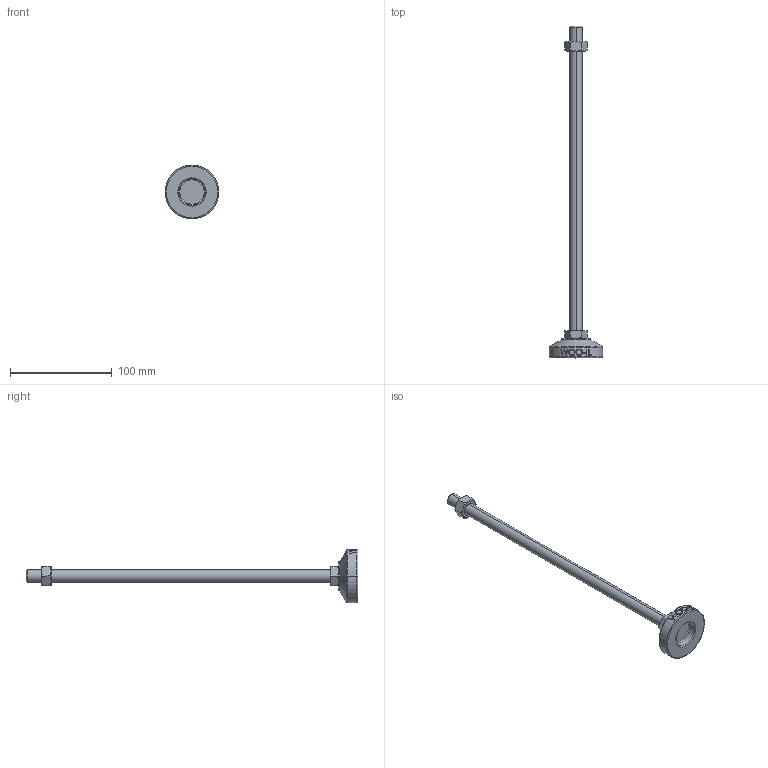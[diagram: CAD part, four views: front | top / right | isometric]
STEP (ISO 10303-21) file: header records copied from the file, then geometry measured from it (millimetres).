
FILE_DESCRIPTION (( 'STEP AP214' ), '1' );
FILE_NAME ('MFZ53-M12-300.step', '2021-01-15T07:04:03', ( '' ), ( '' ), 'SwSTEP 2.0', 'SolidWorks 2019', '' );
FILE_SCHEMA (( 'AUTOMOTIVE_DESIGN' ));
Length unit declared in the file: millimetre
Products named in the file (2): MFZ53-M12-300
Bounding box: 53 x 327 x 53 mm (x, y, z)
Volume: 68423.1 mm3; surface area: 20859.1 mm2
Topology: 3 solids, 3 shells, 106 faces, 243 edges, 154 vertices
Faces by surface type: plane 48, cylinder 18, bspline 16, cone 14, torus 10
Entity records: 4508 total; most frequent: CARTESIAN_POINT 2165, ORIENTED_EDGE 486, DIRECTION 439, EDGE_CURVE 243, AXIS2_PLACEMENT_3D 170, VERTEX_POINT 154, EDGE_LOOP 119, FACE_OUTER_BOUND 106
